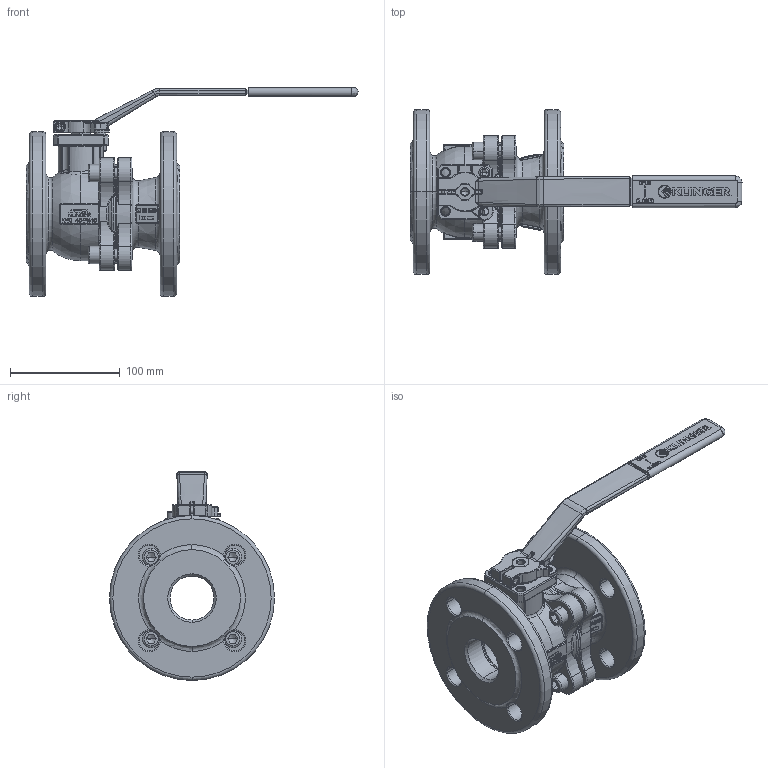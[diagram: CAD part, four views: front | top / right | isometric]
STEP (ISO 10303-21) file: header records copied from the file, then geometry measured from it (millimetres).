
FILE_DESCRIPTION((''),'2;1');
FILE_NAME('KHEFK040VFK040P040PKK','2015-08-07T',('mahrhauserh'),('RAND'),'PRO/ENGINEER BY PARAMETRIC TECHNOLOGY CORPORATION, 2013410','PRO/ENGINEER BY PARAMETRIC TECHNOLOGY CORPORATION, 2013410','');
FILE_SCHEMA(('CONFIG_CONTROL_DESIGN'));
Products named in the file (1): KHEFK040VFK040P040PKK
Bounding box: 302 x 150 x 190.05 mm (x, y, z)
Volume: 1014128.8 mm3; surface area: 225605.9 mm2
Topology: 1 solids, 2 shells, 3109 faces, 8117 edges, 5133 vertices
Faces by surface type: plane 1950, cylinder 418, torus 304, bspline 274, cone 128, sphere 35
Entity records: 120171 total; most frequent: CARTESIAN_POINT 44949, ORIENTED_EDGE 16206, DIRECTION 14806, EDGE_CURVE 8103, VECTOR 5684, LINE 5684, VERTEX_POINT 5133, AXIS2_PLACEMENT_3D 4561
